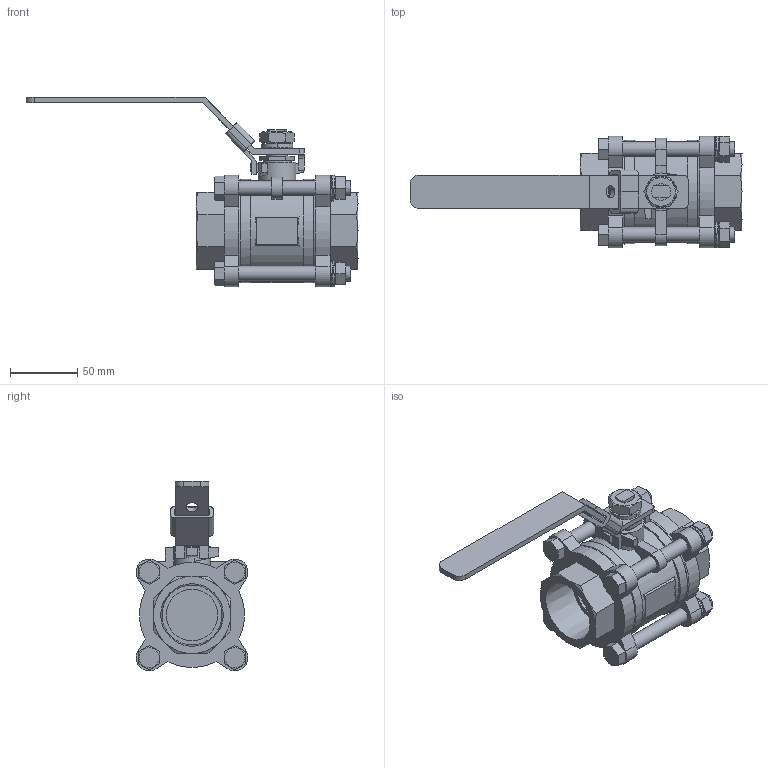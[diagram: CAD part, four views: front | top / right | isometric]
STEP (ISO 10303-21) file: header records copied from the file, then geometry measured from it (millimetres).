
FILE_DESCRIPTION((' '),'2;1');
FILE_NAME('N:\Technical Support\Private\Jomar Valve CAD\Ball Valves\CS and SS\1000N-4B\1.5 T-CS[SS]-1000N-4B (500-407 [500-307]) FusionCopy.stp.step','2016-07-05T11:51:59',(' '),(' '),' ','ACIS',' ');
FILE_SCHEMA(('CONFIG_CONTROL_DESIGN'));
Length unit declared in the file: inch
Products named in the file (22): N:\Technical Support\Private\Jomar Valve CAD\Ball Valves\CS and SS\1000N-4B\1.5 T-CS[SS]-1000N-4B (500-407 [500-307]) FusionCopy.stp.step; Body1; Body2; Body3; Body4; Body5; Body6; Body7; Body8; Body9; Body10; Body11; Body12; Body13; Body14; Body15; Body16; Body17; Body18; Body19; Body20; Body21
Assembly tree (21 placements, depth 2):
  N:\Technical Support\Private\Jomar Valve CAD\Ball Valves\CS and SS\1000N-4B\1.5 T-CS[SS]-1000N-4B (500-407 [500-307]) FusionCopy.stp.step
    Body1
    Body2
    Body3
    Body4
    Body5
    Body6
    Body7
    Body8
    Body9
    Body10
    Body11
    Body12
    Body13
    Body14
    Body15
    Body16
    Body17
    Body18
    Body19
    Body20
    Body21
Bounding box: 246.44 x 82.9 x 140.71 mm (x, y, z)
Volume: 481080.8 mm3; surface area: 116742.5 mm2
Topology: 21 solids, 21 shells, 421 faces, 1039 edges, 656 vertices
Faces by surface type: plane 169, bspline 148, cylinder 46, cone 42, torus 16
Full cylindrical faces by diameter (mm): 8.966 x1, 9.398 x2, 10.922 x2, 11.43 x1, 12.065 x4, 12.344 x1, 14.986 x1, 15.367 x1, 20.701 x1, 28.042 x1, 38.227 x1, 77.089 x1
Entity records: 17143 total; most frequent: CARTESIAN_POINT 4865, ORIENTED_EDGE 1944, DIRECTION 1809, EDGE_CURVE 972, AXIS2_PLACEMENT_3D 649, VERTEX_POINT 635, EDGE_LOOP 513, VECTOR 511
